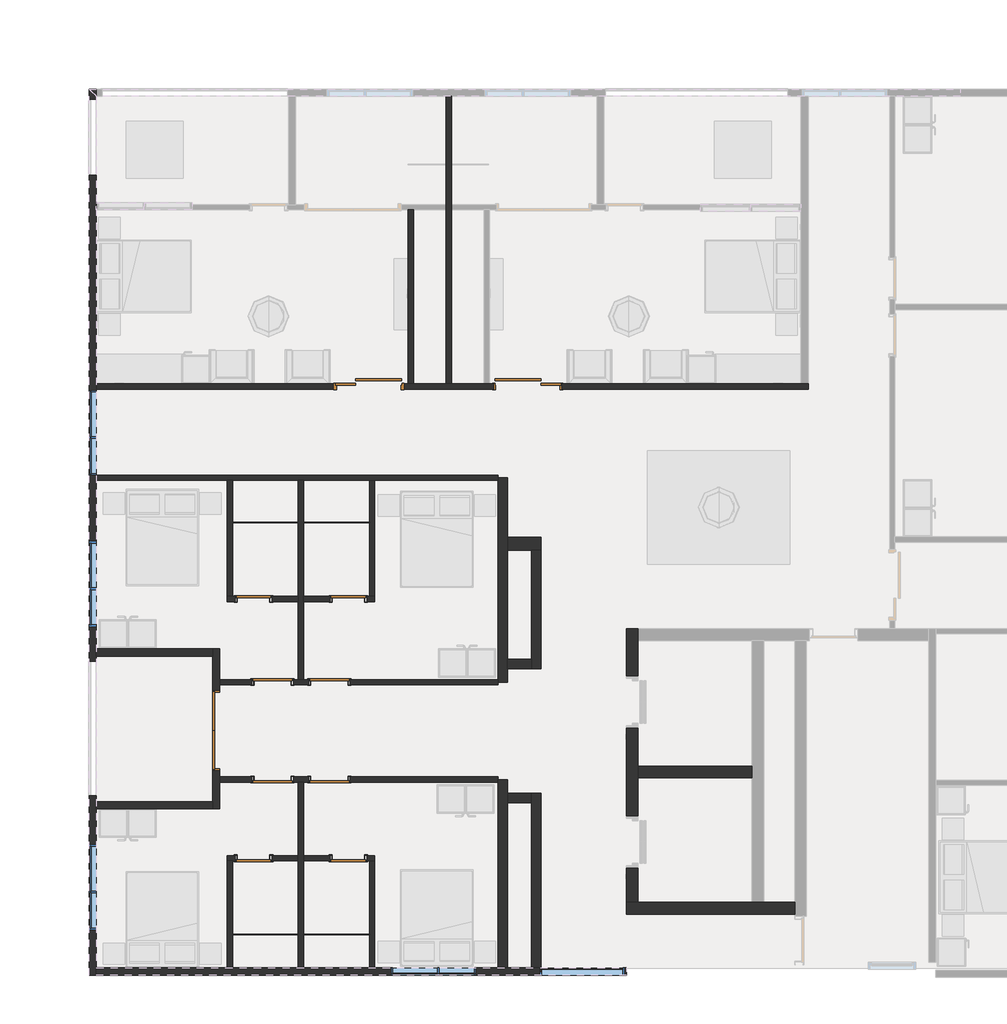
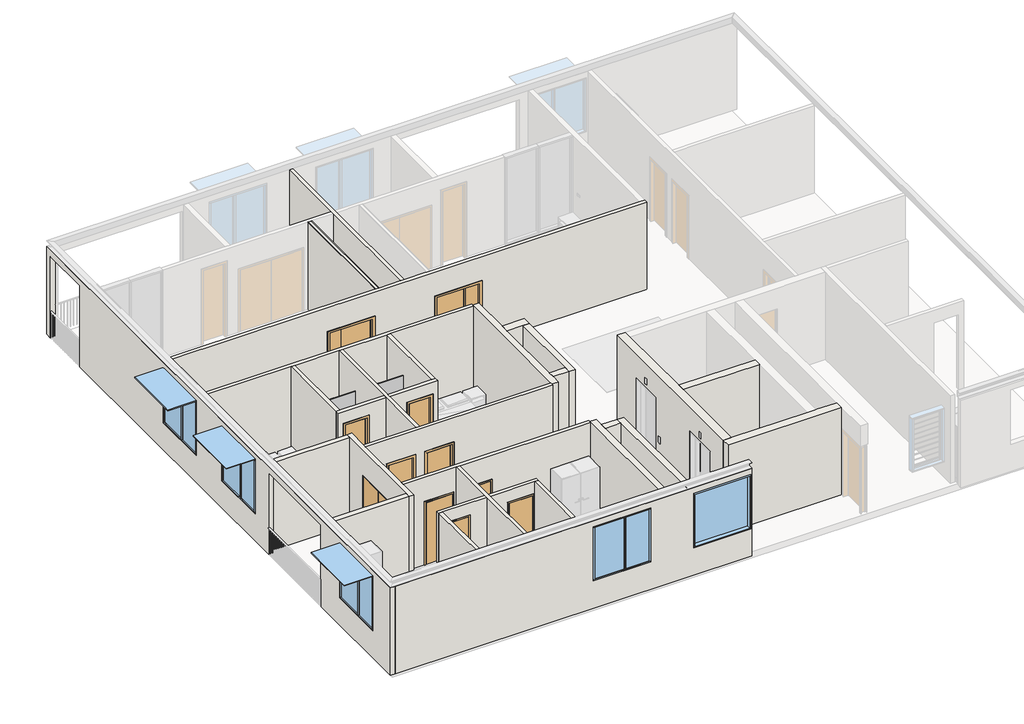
# One storey, part 1 of 4: 29 walls, 11 doors, 5 windows, 3 plates.
"""IFC4 building model written with IfcOpenShell, lengths in millimetres."""

from ifc_helpers import new_model, si_unit, frame, origin, place, context, project, spatial, polyline, outline, extrude, faceted_brep, transform, mapped, element, save
from components import swing_double_aluminium_frame_door_2040x820x2_474ccbf3, swing_double_metal_frame_double_uneven_2040x970_420_3f28db50, swing_double_metal_frame_double_uneven_2040x970_420_093d1636, swing_metal_frame_single_dor_a031a637, swing_metal_frame_single_dor_bd4720e7, swing_metal_frame_single_dor1_05198c53, swing_metal_frame_single_dor1_61deca97, system_panel_glazed_92606f17, system_panel_glazed_5122fece, window_bottom_hung_window_bottom_hung_09912109, window_bottom_hung_window_bottom_hung_26d81d5b, window_fixed_1800mm_wide_217cd763

model = new_model("IFC4")

# Units and contexts
model_context = context("Model", 3, world=origin())
ifc_project = project(units=[si_unit("LENGTHUNIT", "METRE", prefix="MILLI")], contexts=[model_context])

# Site, building, storey
site = spatial("IfcSite", under=ifc_project)
building = spatial("IfcBuilding", under=site)
storey = spatial("IfcBuildingStorey", under=building, Name="7階", Elevation=48500.0)

# Doors
placement = place(None, origin())
swing_double_aluminium_frame_door_2040x820x2_shape = swing_double_aluminium_frame_door_2040x820x2_474ccbf3(model_context)
element("IfcDoor", 1, ObjectType="Swing_Double : Aluminium Frame Door 2040x820x2", at=placement, inside=storey, context=model_context, shape_type="MappedRepresentation", body=[
    mapped(swing_double_aluminium_frame_door_2040x820x2_shape, transform((5044.6057353, 4982.7680774, 48500.0), x_axis=(0.0, -1.0, 0.0), y_axis=(1.0, 0.0, 0.0), z_axis=(0.0, 0.0, 1.0))),
])
swing_double_metal_frame_double_uneven_2040x970_420_shape = swing_double_metal_frame_double_uneven_2040x970_420_3f28db50(model_context)
element("IfcDoor", 2, ObjectType="Swing_Double : Metal Frame Double Uneven - 2040x970+420", at=placement, inside=storey, context=model_context, shape_type="MappedRepresentation", body=[
    mapped(swing_double_metal_frame_double_uneven_2040x970_420_shape, transform((11830.4954006, 12445.7680774, 48500.0), x_axis=(1.0, 0.0, 0.0), y_axis=(0.0, 1.0, 0.0), z_axis=(0.0, 0.0, 1.0))),
])
swing_double_metal_frame_double_uneven_2040x970_420_2_shape = swing_double_metal_frame_double_uneven_2040x970_420_093d1636(model_context)
element("IfcDoor", 3, ObjectType="Swing_Double : Metal Frame Double Uneven - 2040x970+420", at=placement, inside=storey, context=model_context, shape_type="MappedRepresentation", body=[
    mapped(swing_double_metal_frame_double_uneven_2040x970_420_2_shape, transform((8053.1645991, 12445.7680774, 48500.0), x_axis=(-1.0, 0.0, 0.0), y_axis=(0.0, -1.0, 0.0), z_axis=(0.0, 0.0, 1.0))),
])
swing_metal_frame_single_dor_shape = swing_metal_frame_single_dor_a031a637(model_context)
element("IfcDoor", 4, ObjectType="Swing_Metal Frame_Single_DOR : 2040h x 820 (2110x920 STUD)", at=placement, inside=storey, context=model_context, shape_type="MappedRepresentation", body=[
    mapped(swing_metal_frame_single_dor_shape, transform((7434.6645991, 4161.2680774, 48500.0), x_axis=(1.0, 0.0, 0.0), y_axis=(0.0, 1.0, 0.0), z_axis=(0.0, 0.0, 1.0))),
])
element("IfcDoor", 5, ObjectType="Swing_Metal Frame_Single_DOR : 2040h x 820 (2110x920 STUD)", at=placement, inside=storey, context=model_context, shape_type="MappedRepresentation", body=[
    mapped(swing_metal_frame_single_dor_shape, transform((6234.6645991, 6214.2680774, 48500.0), x_axis=(-1.0, 0.0, 0.0), y_axis=(0.0, -1.0, 0.0), z_axis=(0.0, 0.0, 1.0))),
])
swing_metal_frame_single_dor_2_shape = swing_metal_frame_single_dor_bd4720e7(model_context)
element("IfcDoor", 6, ObjectType="Swing_Metal Frame_Single_DOR : 2040h x 820 (2110x920 STUD)", at=placement, inside=storey, context=model_context, shape_type="MappedRepresentation", body=[
    mapped(swing_metal_frame_single_dor_2_shape, transform((6234.6645991, 4161.2680774, 48500.0), x_axis=(-1.0, 0.0, 0.0), y_axis=(0.0, -1.0, 0.0), z_axis=(0.0, 0.0, 1.0))),
])
element("IfcDoor", 7, ObjectType="Swing_Metal Frame_Single_DOR : 2040h x 820 (2110x920 STUD)", at=placement, inside=storey, context=model_context, shape_type="MappedRepresentation", body=[
    mapped(swing_metal_frame_single_dor_2_shape, transform((7434.6645991, 6214.2680774, 48500.0), x_axis=(1.0, 0.0, 0.0), y_axis=(0.0, 1.0, 0.0), z_axis=(0.0, 0.0, 1.0))),
])
swing_metal_frame_single_dor1_shape = swing_metal_frame_single_dor1_05198c53(model_context)
element("IfcDoor", 8, ObjectType="Swing_Metal Frame_Single_DOR1 : 2040h x 720 (2110x820 STUD)", at=placement, inside=storey, context=model_context, shape_type="MappedRepresentation", body=[
    mapped(swing_metal_frame_single_dor1_shape, transform((7834.6645991, 2501.0912238, 48500.0), x_axis=(-1.0, 0.0, 0.0), y_axis=(0.0, -1.0, 0.0), z_axis=(0.0, 0.0, 1.0))),
])
element("IfcDoor", 9, ObjectType="Swing_Metal Frame_Single_DOR1 : 2040h x 720 (2110x820 STUD)", at=placement, inside=storey, context=model_context, shape_type="MappedRepresentation", body=[
    mapped(swing_metal_frame_single_dor1_shape, transform((5834.6645991, 7965.493553, 48500.0), x_axis=(1.0, 0.0, 0.0), y_axis=(0.0, 1.0, 0.0), z_axis=(0.0, 0.0, 1.0))),
])
swing_metal_frame_single_dor1_2_shape = swing_metal_frame_single_dor1_61deca97(model_context)
element("IfcDoor", 10, ObjectType="Swing_Metal Frame_Single_DOR1 : 2040h x 720 (2110x820 STUD)", at=placement, inside=storey, context=model_context, shape_type="MappedRepresentation", body=[
    mapped(swing_metal_frame_single_dor1_2_shape, transform((5834.6645991, 2501.0912238, 48500.0), x_axis=(1.0, 0.0, 0.0), y_axis=(0.0, 1.0, 0.0), z_axis=(0.0, 0.0, 1.0))),
])
element("IfcDoor", 11, ObjectType="Swing_Metal Frame_Single_DOR1 : 2040h x 720 (2110x820 STUD)", at=placement, inside=storey, context=model_context, shape_type="MappedRepresentation", body=[
    mapped(swing_metal_frame_single_dor1_2_shape, transform((7834.6645991, 7965.493553, 48500.0), x_axis=(-1.0, 0.0, 0.0), y_axis=(0.0, -1.0, 0.0), z_axis=(0.0, 0.0, 1.0))),
])

# Plates
system_panel_glazed_shape = system_panel_glazed_92606f17(model_context)
element("IfcPlate", 12, ObjectType="System Panel : Glazed", at=placement, inside=storey, context=model_context, shape_type="MappedRepresentation", body=[
    mapped(system_panel_glazed_shape, transform((6084.6645991, 901.0912238, 48500.0), x_axis=(-1.0, 0.0, 0.0), y_axis=(0.0, -1.0, 0.0), z_axis=(0.0, 0.0, 1.0))),
])
element("IfcPlate", 13, ObjectType="System Panel : Glazed", at=placement, inside=storey, context=model_context, shape_type="MappedRepresentation", body=[
    mapped(system_panel_glazed_shape, transform((7584.6645991, 901.0912238, 48500.0), x_axis=(-1.0, 0.0, 0.0), y_axis=(0.0, -1.0, 0.0), z_axis=(0.0, 0.0, 1.0))),
])
system_panel_glazed_2_shape = system_panel_glazed_5122fece(model_context)
element("IfcPlate", 14, ObjectType="System Panel : Glazed", at=placement, inside=storey, context=model_context, shape_type="MappedRepresentation", body=[
    mapped(system_panel_glazed_2_shape, transform((6834.6645991, 9575.493553, 48500.0), x_axis=(1.0, 0.0, 0.0), y_axis=(0.0, 1.0, 0.0), z_axis=(0.0, 0.0, 1.0))),
])

# Walls
element("IfcWall", 15, ObjectType="Brickwork_Double_270mm", at=placement, inside=storey, context=model_context, shape_type="Brep", body=[
    faceted_brep([(11194.6062665, 8996.2680774, 48500.0), (11694.6062665, 8996.2680774, 48500.0), (11894.6062665, 8996.2680774, 48500.0), (11894.6062665, 8996.2680774, 51400.0), (11694.6062665, 8996.2680774, 51400.0), (11194.6062665, 8996.2680774, 51400.0), (11194.6062665, 9266.2680774, 48500.0), (11194.6062665, 9266.2680774, 51400.0), (11894.6062665, 9266.2680774, 51400.0), (11894.6062665, 9266.2680774, 48500.0)], [[[0, 1, 2, 3, 4, 5]], [[6, 7, 8, 9]], [[2, 1, 0, 6, 9]], [[5, 4, 3, 8, 7]], [[0, 5, 7, 6]], [[3, 2, 9, 8]]]),
])
element("IfcWall", 16, ObjectType="Whte Paint Finish", at=placement, inside=storey, context=model_context, shape_type="Brep", body=[
    faceted_brep([(5119.6057353, 6035.2680774, 50581.0), (5119.6057353, 6035.2680774, 48500.0), (5119.6057353, 6159.2680774, 48500.0), (5119.6057353, 6269.2680774, 48500.0), (5119.6057353, 6914.2680774, 48500.0), (5119.6057353, 6914.2680774, 51400.0), (5119.6057353, 6269.2680774, 51400.0), (5119.6057353, 6159.2680774, 51400.0), (5119.6057353, 4216.2680774, 51400.0), (5119.6057353, 4106.2680774, 51400.0), (5119.6057353, 3546.2680774, 51400.0), (5119.6057353, 3546.2680774, 48500.0), (5119.6057353, 4106.2680774, 48500.0), (5119.6057353, 4216.2680774, 48500.0), (5119.6057353, 4353.2680774, 48500.0), (5119.6057353, 4353.2680774, 50581.0), (4969.6057353, 6914.2680774, 48500.0), (4969.6057353, 6764.2680774, 48500.0), (4969.6057353, 6035.2680774, 48500.0), (4969.6057353, 6035.2680774, 50581.0), (4969.6057353, 4353.2680774, 50581.0), (4969.6057353, 4353.2680774, 48500.0), (4969.6057353, 3696.2680774, 48500.0), (4969.6057353, 3546.2680774, 48500.0), (4969.6057353, 3546.2680774, 51400.0), (4969.6057353, 3696.2680774, 51400.0), (4969.6057353, 6764.2680774, 51400.0), (4969.6057353, 6914.2680774, 51400.0)], [[[0, 1, 2, 3, 4, 5, 6, 7, 8, 9, 10, 11, 12, 13, 14, 15]], [[16, 17, 18, 19, 20, 21, 22, 23, 24, 25, 26, 27]], [[4, 3, 2, 1, 18, 17, 16]], [[14, 13, 12, 11, 23, 22, 21]], [[10, 9, 8, 7, 6, 5, 27, 26, 25, 24]], [[11, 10, 24, 23]], [[5, 4, 16, 27]], [[19, 18, 1, 0]], [[20, 19, 0, 15]], [[21, 20, 15, 14]]]),
])
element("IfcWall", 17, ObjectType="Whte Paint Finish", at=placement, inside=storey, context=model_context, shape_type="SweptSolid", body=[
    extrude(outline(polyline([(2519.6057353, 3696.2680774), (4969.6057353, 3696.2680774), (4969.6057353, 3546.2680774), (2519.6057353, 3546.2680774), (2519.6057353, 3696.2680774)])), frame((0.0, 0.0, 48500.0), z_axis=(0.0, 0.0, 1.0), x_axis=(1.0, 0.0, 0.0)), (0.0, 0.0, 1.0), 2900.0),
])
element("IfcWall", 18, ObjectType="Whte Paint Finish", at=placement, inside=storey, context=model_context, shape_type="SweptSolid", body=[
    extrude(outline(polyline([(2519.6057353, 6914.2680774), (4969.6057353, 6914.2680774), (4969.6057353, 6764.2680774), (2519.6057353, 6764.2680774), (2519.6057353, 6914.2680774)])), frame((0.0, 0.0, 48500.0), z_axis=(0.0, 0.0, 1.0), x_axis=(1.0, 0.0, 0.0)), (0.0, 0.0, 1.0), 2900.0),
])
element("IfcWall", 19, ObjectType="Whte Paint Finish", at=placement, inside=storey, context=model_context, shape_type="Brep", body=[
    faceted_brep([(2519.6057353, 39.0898177, 51400.0), (13694.6062665, 39.0898177, 51400.0), (13694.6062665, 189.0898177, 51400.0), (8389.6645991, 189.0898177, 51400.0), (8279.6645991, 189.0898177, 51400.0), (6889.6645991, 189.0898177, 51400.0), (6779.6645991, 189.0898177, 51400.0), (5389.6645991, 189.0898177, 51400.0), (5279.6645991, 189.0898177, 51400.0), (2519.6057353, 189.0898177, 51400.0), (11869.6062665, 39.0898177, 49400.0), (13669.6062665, 39.0898177, 49400.0), (13669.6062665, 189.0898177, 49400.0), (11869.6062665, 189.0898177, 49400.0), (13669.6062665, 39.0898177, 51200.0), (13669.6062665, 189.0898177, 51200.0), (11869.6062665, 39.0898177, 51200.0), (11869.6062665, 189.0898177, 51200.0), (2519.6057353, 39.0898177, 48500.0), (13694.6062665, 39.0898177, 48500.0), (10529.6062665, 39.0898177, 49400.0), (8729.6062665, 39.0898177, 49400.0), (8729.6062665, 39.0898177, 51200.0), (10529.6062665, 39.0898177, 51200.0), (2519.6057353, 189.0898177, 48500.0), (13694.6062665, 189.0898177, 48500.0), (8389.6645991, 189.0898177, 48500.0), (8279.6645991, 189.0898177, 48500.0), (6889.6645991, 189.0898177, 48500.0), (6779.6645991, 189.0898177, 48500.0), (5389.6645991, 189.0898177, 48500.0), (5279.6645991, 189.0898177, 48500.0), (10529.6062665, 189.0898177, 49400.0), (10529.6062665, 189.0898177, 51200.0), (8729.6062665, 189.0898177, 51200.0), (8729.6062665, 189.0898177, 49400.0)], [[[0, 1, 2, 3, 4, 5, 6, 7, 8, 9]], [[10, 11, 12, 13]], [[11, 14, 15, 12]], [[14, 16, 17, 15]], [[16, 10, 13, 17]], [[18, 19, 1, 0], [10, 16, 14, 11], [20, 21, 22, 23]], [[24, 9, 8, 7, 6, 5, 4, 3, 2, 25, 26, 27, 28, 29, 30, 31], [13, 12, 15, 17], [32, 33, 34, 35]], [[19, 18, 24, 31, 30, 29, 28, 27, 26, 25]], [[1, 19, 25, 2]], [[18, 0, 9, 24]], [[33, 32, 20, 23]], [[34, 33, 23, 22]], [[35, 34, 22, 21]], [[32, 35, 21, 20]]]),
])
element("IfcWall", 20, ObjectType="Whte Paint Finish", at=placement, inside=storey, context=model_context, shape_type="Brep", body=[
    faceted_brep([(2519.6057353, 39.0898177, 51400.0), (2519.6057353, 189.0898177, 51400.0), (2519.6057353, 3546.2680774, 51400.0), (2519.6057353, 3696.2680774, 51400.0), (2519.6057353, 6764.2680774, 51400.0), (2519.6057353, 6914.2680774, 51400.0), (2519.6057353, 10465.005792, 51400.0), (2519.6057353, 10575.005792, 51400.0), (2519.6057353, 12390.7680774, 51400.0), (2519.6057353, 12500.7680774, 51400.0), (2519.6057353, 18560.0, 51400.0), (2519.6057353, 18710.0, 51400.0), (2369.6057353, 18710.0, 51400.0), (2369.6057353, 39.0898177, 51400.0), (2369.6057353, 3816.2680774, 51200.0), (2369.6057353, 6650.3166994, 51200.0), (2519.6057353, 6650.3166994, 51200.0), (2519.6057353, 3816.2680774, 51200.0), (2369.6057353, 6650.3166994, 48500.0), (2519.6057353, 6650.3166994, 48500.0), (2369.6057353, 3816.2680774, 48500.0), (2519.6057353, 3816.2680774, 48500.0), (2369.6057353, 16894.8875971, 51200.0), (2369.6057353, 18500.0, 51200.0), (2519.6057353, 18500.0, 51200.0), (2519.6057353, 16894.8875971, 51200.0), (2369.6057353, 18500.0, 48500.0), (2519.6057353, 18500.0, 48500.0), (2369.6057353, 16894.8875971, 48500.0), (2519.6057353, 16894.8875971, 48500.0), (2519.6057353, 18560.0, 48500.0), (2519.6057353, 18710.0, 48500.0), (2519.6057353, 39.0898177, 48500.0), (2519.6057353, 189.0898177, 48500.0), (2519.6057353, 3546.2680774, 48500.0), (2519.6057353, 3696.2680774, 48500.0), (2519.6057353, 6764.2680774, 48500.0), (2519.6057353, 6914.2680774, 48500.0), (2519.6057353, 10465.005792, 48500.0), (2519.6057353, 10575.005792, 48500.0), (2519.6057353, 12390.7680774, 48500.0), (2519.6057353, 12500.7680774, 48500.0), (2519.6057353, 10570.7680774, 49400.0), (2519.6057353, 10570.7680774, 51200.0), (2519.6057353, 12370.7680774, 51200.0), (2519.6057353, 12370.7680774, 49400.0), (2519.6057353, 990.6340387, 49400.0), (2519.6057353, 990.6340387, 51200.0), (2519.6057353, 2790.6340387, 51200.0), (2519.6057353, 2790.6340387, 49400.0), (2519.6057353, 7385.3166994, 49400.0), (2519.6057353, 7385.3166994, 51200.0), (2519.6057353, 9185.3166994, 51200.0), (2519.6057353, 9185.3166994, 49400.0), (2369.6057353, 18710.0, 48500.0), (2369.6057353, 39.0898177, 48500.0), (2369.6057353, 10570.7680774, 49400.0), (2369.6057353, 12370.7680774, 49400.0), (2369.6057353, 12370.7680774, 51200.0), (2369.6057353, 10570.7680774, 51200.0), (2369.6057353, 990.6340387, 49400.0), (2369.6057353, 2790.6340387, 49400.0), (2369.6057353, 2790.6340387, 51200.0), (2369.6057353, 990.6340387, 51200.0), (2369.6057353, 7385.3166994, 49400.0), (2369.6057353, 9185.3166994, 49400.0), (2369.6057353, 9185.3166994, 51200.0), (2369.6057353, 7385.3166994, 51200.0)], [[[0, 1, 2, 3, 4, 5, 6, 7, 8, 9, 10, 11, 12, 13]], [[14, 15, 16, 17]], [[15, 18, 19, 16]], [[20, 14, 17, 21]], [[22, 23, 24, 25]], [[23, 26, 27, 24]], [[28, 22, 25, 29]], [[24, 27, 30, 31, 11, 10, 9, 8, 7, 6, 5, 4, 3, 2, 1, 0, 32, 33, 34, 35, 21, 17, 16, 19, 36, 37, 38, 39, 40, 41, 29, 25], [42, 43, 44, 45], [46, 47, 48, 49], [50, 51, 52, 53]], [[54, 26, 23, 22, 28, 18, 15, 14, 20, 55, 13, 12], [56, 57, 58, 59], [60, 61, 62, 63], [64, 65, 66, 67]], [[29, 41, 40, 39, 38, 37, 36, 19, 18, 28]], [[21, 35, 34, 33, 32, 55, 20]], [[31, 30, 27, 26, 54]], [[32, 0, 13, 55]], [[11, 31, 54, 12]], [[43, 42, 56, 59]], [[44, 43, 59, 58]], [[45, 44, 58, 57]], [[42, 45, 57, 56]], [[47, 46, 60, 63]], [[48, 47, 63, 62]], [[49, 48, 62, 61]], [[46, 49, 61, 60]], [[51, 50, 64, 67]], [[52, 51, 67, 66]], [[53, 52, 66, 65]], [[50, 53, 65, 64]]]),
])
element("IfcWall", 21, ObjectType="Brickwork_Single_110mm", at=placement, inside=storey, context=model_context, shape_type="Brep", body=[
    faceted_brep([(10994.6062665, 4106.2680774, 51400.0), (6889.6645991, 4106.2680774, 51400.0), (6779.6645991, 4106.2680774, 51400.0), (5119.6057353, 4106.2680774, 51400.0), (5119.6057353, 4106.2680774, 48500.0), (5794.6645991, 4106.2680774, 48500.0), (5794.6645991, 4106.2680774, 50590.0), (6674.6645991, 4106.2680774, 50590.0), (6674.6645991, 4106.2680774, 48500.0), (6779.6645991, 4106.2680774, 48500.0), (6889.6645991, 4106.2680774, 48500.0), (6994.6645991, 4106.2680774, 48500.0), (6994.6645991, 4106.2680774, 50590.0), (7874.6645991, 4106.2680774, 50590.0), (7874.6645991, 4106.2680774, 48500.0), (10994.6062665, 4106.2680774, 48500.0), (5119.6057353, 4216.2680774, 51400.0), (10994.6062665, 4216.2680774, 51400.0), (10994.6062665, 4216.2680774, 48500.0), (7874.6645991, 4216.2680774, 48500.0), (7874.6645991, 4216.2680774, 50590.0), (6994.6645991, 4216.2680774, 50590.0), (6994.6645991, 4216.2680774, 48500.0), (6674.6645991, 4216.2680774, 48500.0), (6674.6645991, 4216.2680774, 50590.0), (5794.6645991, 4216.2680774, 50590.0), (5794.6645991, 4216.2680774, 48500.0), (5119.6057353, 4216.2680774, 48500.0), (10994.6062665, 4161.2680774, 48500.0), (10994.6062665, 4161.2680774, 51400.0)], [[[0, 1, 2, 3, 4, 5, 6, 7, 8, 9, 10, 11, 12, 13, 14, 15]], [[16, 17, 18, 19, 20, 21, 22, 23, 24, 25, 26, 27]], [[4, 27, 26, 5]], [[8, 23, 22, 11, 10, 9]], [[18, 28, 15, 14, 19]], [[3, 2, 1, 0, 29, 17, 16]], [[4, 3, 16, 27]], [[25, 6, 5, 26]], [[6, 25, 24, 7]], [[7, 24, 23, 8]], [[13, 20, 19, 14]], [[20, 13, 12, 21]], [[21, 12, 11, 22]], [[0, 15, 28, 18, 17, 29]]]),
])
element("IfcWall", 22, ObjectType="Brickwork_Single_110mm", at=placement, inside=storey, context=model_context, shape_type="Brep", body=[
    faceted_brep([(6779.6645991, 4106.2680774, 48500.0), (6779.6645991, 2556.0912238, 48500.0), (6779.6645991, 2446.0912238, 48500.0), (6779.6645991, 189.0898177, 48500.0), (6779.6645991, 189.0898177, 51400.0), (6779.6645991, 2446.0912238, 51400.0), (6779.6645991, 2556.0912238, 51400.0), (6779.6645991, 4106.2680774, 51400.0), (6889.6645991, 4106.2680774, 48500.0), (6889.6645991, 4106.2680774, 51400.0), (6889.6645991, 2556.0912238, 51400.0), (6889.6645991, 2446.0912238, 51400.0), (6889.6645991, 189.0898177, 51400.0), (6889.6645991, 189.0898177, 48500.0), (6889.6645991, 2446.0912238, 48500.0), (6889.6645991, 2556.0912238, 48500.0)], [[[0, 1, 2, 3, 4, 5, 6, 7]], [[8, 9, 10, 11, 12, 13, 14, 15]], [[3, 2, 1, 0, 8, 15, 14, 13]], [[7, 6, 5, 4, 12, 11, 10, 9]], [[4, 3, 13, 12]], [[0, 7, 9, 8]]]),
])
element("IfcWall", 23, ObjectType="Brickwork_Single_110mm", at=placement, inside=storey, context=model_context, shape_type="Brep", body=[
    faceted_brep([(10994.6062665, 6159.2680774, 51400.0), (5119.6057353, 6159.2680774, 51400.0), (5119.6057353, 6159.2680774, 48500.0), (5794.6645991, 6159.2680774, 48500.0), (5794.6645991, 6159.2680774, 50590.0), (6674.6645991, 6159.2680774, 50590.0), (6674.6645991, 6159.2680774, 48500.0), (6994.6645991, 6159.2680774, 48500.0), (6994.6645991, 6159.2680774, 50590.0), (7874.6645991, 6159.2680774, 50590.0), (7874.6645991, 6159.2680774, 48500.0), (10994.6062665, 6159.2680774, 48500.0), (5119.6057353, 6269.2680774, 51400.0), (6779.6645991, 6269.2680774, 51400.0), (6889.6645991, 6269.2680774, 51400.0), (10994.6062665, 6269.2680774, 51400.0), (10994.6062665, 6269.2680774, 48500.0), (7874.6645991, 6269.2680774, 48500.0), (7874.6645991, 6269.2680774, 50590.0), (6994.6645991, 6269.2680774, 50590.0), (6994.6645991, 6269.2680774, 48500.0), (6889.6645991, 6269.2680774, 48500.0), (6779.6645991, 6269.2680774, 48500.0), (6674.6645991, 6269.2680774, 48500.0), (6674.6645991, 6269.2680774, 50590.0), (5794.6645991, 6269.2680774, 50590.0), (5794.6645991, 6269.2680774, 48500.0), (5119.6057353, 6269.2680774, 48500.0), (10994.6062665, 6214.2680774, 48500.0), (10994.6062665, 6214.2680774, 51400.0)], [[[0, 1, 2, 3, 4, 5, 6, 7, 8, 9, 10, 11]], [[12, 13, 14, 15, 16, 17, 18, 19, 20, 21, 22, 23, 24, 25, 26, 27]], [[2, 27, 26, 3]], [[6, 23, 22, 21, 20, 7]], [[16, 28, 11, 10, 17]], [[1, 0, 29, 15, 14, 13, 12]], [[2, 1, 12, 27]], [[25, 4, 3, 26]], [[4, 25, 24, 5]], [[5, 24, 23, 6]], [[9, 18, 17, 10]], [[18, 9, 8, 19]], [[19, 8, 7, 20]], [[0, 11, 28, 16, 15, 29]]]),
])
element("IfcWall", 24, ObjectType="Brickwork_Single_110mm", at=placement, inside=storey, context=model_context, shape_type="Brep", body=[
    faceted_brep([(2519.6057353, 10465.005792, 48500.0), (5279.6645991, 10465.005792, 48500.0), (5389.6645991, 10465.005792, 48500.0), (6779.6645991, 10465.005792, 48500.0), (6889.6645991, 10465.005792, 48500.0), (8279.6645991, 10465.005792, 48500.0), (8389.6645991, 10465.005792, 48500.0), (10994.6062665, 10465.005792, 48500.0), (10994.6062665, 10465.005792, 51400.0), (8389.6645991, 10465.005792, 51400.0), (8279.6645991, 10465.005792, 51400.0), (6889.6645991, 10465.005792, 51400.0), (6779.6645991, 10465.005792, 51400.0), (5389.6645991, 10465.005792, 51400.0), (5279.6645991, 10465.005792, 51400.0), (2519.6057353, 10465.005792, 51400.0), (2519.6057353, 10575.005792, 48500.0), (2519.6057353, 10575.005792, 51400.0), (10994.6062665, 10575.005792, 51400.0), (10994.6062665, 10575.005792, 48500.0), (10994.6062665, 10520.005792, 48500.0), (10994.6062665, 10520.005792, 51400.0)], [[[0, 1, 2, 3, 4, 5, 6, 7, 8, 9, 10, 11, 12, 13, 14, 15]], [[16, 17, 18, 19]], [[7, 6, 5, 4, 3, 2, 1, 0, 16, 19, 20]], [[15, 14, 13, 12, 11, 10, 9, 8, 21, 18, 17]], [[0, 15, 17, 16]], [[8, 7, 20, 19, 18, 21]]]),
])
element("IfcWall", 25, ObjectType="Brickwork_Single_110mm", at=placement, inside=storey, context=model_context, shape_type="Brep", body=[
    faceted_brep([(6889.6645991, 6269.2680774, 48500.0), (6889.6645991, 7910.493553, 48500.0), (6889.6645991, 8020.493553, 48500.0), (6889.6645991, 10465.005792, 48500.0), (6889.6645991, 10465.005792, 51400.0), (6889.6645991, 8020.493553, 51400.0), (6889.6645991, 7910.493553, 51400.0), (6889.6645991, 6269.2680774, 51400.0), (6779.6645991, 6269.2680774, 48500.0), (6779.6645991, 6269.2680774, 51400.0), (6779.6645991, 7910.493553, 51400.0), (6779.6645991, 8020.493553, 51400.0), (6779.6645991, 10465.005792, 51400.0), (6779.6645991, 10465.005792, 48500.0), (6779.6645991, 8020.493553, 48500.0), (6779.6645991, 7910.493553, 48500.0)], [[[0, 1, 2, 3, 4, 5, 6, 7]], [[8, 9, 10, 11, 12, 13, 14, 15]], [[3, 2, 1, 0, 8, 15, 14, 13]], [[7, 6, 5, 4, 12, 11, 10, 9]], [[0, 7, 9, 8]], [[4, 3, 13, 12]]]),
])
element("IfcWall", 26, ObjectType="Brickwork_Single_110mm", at=placement, inside=storey, context=model_context, shape_type="Brep", body=[
    faceted_brep([(5279.6645991, 2446.0912238, 51400.0), (5279.6645991, 2446.0912238, 48500.0), (5389.6645991, 2446.0912238, 48500.0), (5444.6645991, 2446.0912238, 48500.0), (5444.6645991, 2446.0912238, 50990.0), (6224.6645991, 2446.0912238, 50990.0), (6224.6645991, 2446.0912238, 48500.0), (6779.6645991, 2446.0912238, 48500.0), (6779.6645991, 2446.0912238, 51400.0), (5389.6645991, 2446.0912238, 51400.0), (5279.6645991, 2556.0912238, 48500.0), (5279.6645991, 2556.0912238, 51400.0), (6779.6645991, 2556.0912238, 51400.0), (6779.6645991, 2556.0912238, 48500.0), (6224.6645991, 2556.0912238, 48500.0), (6224.6645991, 2556.0912238, 50990.0), (5444.6645991, 2556.0912238, 50990.0), (5444.6645991, 2556.0912238, 48500.0)], [[[0, 1, 2, 3, 4, 5, 6, 7, 8, 9]], [[10, 11, 12, 13, 14, 15, 16, 17]], [[1, 10, 17, 3, 2]], [[6, 14, 13, 7]], [[11, 0, 9, 8, 12]], [[8, 7, 13, 12]], [[1, 0, 11, 10]], [[5, 15, 14, 6]], [[15, 5, 4, 16]], [[16, 4, 3, 17]]]),
    faceted_brep([(8389.6645991, 2446.0912238, 48500.0), (8389.6645991, 2446.0912238, 51400.0), (8279.6645991, 2446.0912238, 51400.0), (6889.6645991, 2446.0912238, 51400.0), (6889.6645991, 2446.0912238, 48500.0), (7444.6645991, 2446.0912238, 48500.0), (7444.6645991, 2446.0912238, 50990.0), (8224.6645991, 2446.0912238, 50990.0), (8224.6645991, 2446.0912238, 48500.0), (8279.6645991, 2446.0912238, 48500.0), (8389.6645991, 2556.0912238, 51400.0), (8389.6645991, 2556.0912238, 48500.0), (8224.6645991, 2556.0912238, 48500.0), (8224.6645991, 2556.0912238, 50990.0), (7444.6645991, 2556.0912238, 50990.0), (7444.6645991, 2556.0912238, 48500.0), (6889.6645991, 2556.0912238, 48500.0), (6889.6645991, 2556.0912238, 51400.0)], [[[0, 1, 2, 3, 4, 5, 6, 7, 8, 9]], [[10, 11, 12, 13, 14, 15, 16, 17]], [[11, 0, 9, 8, 12]], [[15, 5, 4, 16]], [[1, 10, 17, 3, 2]], [[4, 3, 17, 16]], [[1, 0, 11, 10]], [[14, 6, 5, 15]], [[6, 14, 13, 7]], [[7, 13, 12, 8]]]),
])
element("IfcWall", 27, ObjectType="Brickwork_Single_110mm", at=placement, inside=storey, context=model_context, shape_type="SweptSolid", body=[
    extrude(outline(polyline([(5279.6645991, 189.0898177), (5279.6645991, 2446.0912238), (5389.6645991, 2446.0912238), (5389.6645991, 189.0898177), (5279.6645991, 189.0898177)])), frame((0.0, 0.0, 48500.0), z_axis=(0.0, 0.0, 1.0), x_axis=(1.0, 0.0, 0.0)), (0.0, 0.0, 1.0), 2900.0),
])
element("IfcWall", 28, ObjectType="Brickwork_Single_110mm", at=placement, inside=storey, context=model_context, shape_type="SweptSolid", body=[
    extrude(outline(polyline([(8279.6645991, 189.0898177), (8279.6645991, 2446.0912238), (8389.6645991, 2446.0912238), (8389.6645991, 189.0898177), (8279.6645991, 189.0898177)])), frame((0.0, 0.0, 48500.0), z_axis=(0.0, 0.0, 1.0), x_axis=(1.0, 0.0, 0.0)), (0.0, 0.0, 1.0), 2900.0),
])
element("IfcWall", 29, ObjectType="Brickwork_Single_110mm", at=placement, inside=storey, context=model_context, shape_type="Brep", body=[
    faceted_brep([(5279.6645991, 7910.493553, 51400.0), (5279.6645991, 7910.493553, 48500.0), (5444.6645991, 7910.493553, 48500.0), (5444.6645991, 7910.493553, 50990.0), (6224.6645991, 7910.493553, 50990.0), (6224.6645991, 7910.493553, 48500.0), (6779.6645991, 7910.493553, 48500.0), (6779.6645991, 7910.493553, 51400.0), (5279.6645991, 8020.493553, 48500.0), (5279.6645991, 8020.493553, 51400.0), (5389.6645991, 8020.493553, 51400.0), (6779.6645991, 8020.493553, 51400.0), (6779.6645991, 8020.493553, 48500.0), (6224.6645991, 8020.493553, 48500.0), (6224.6645991, 8020.493553, 50990.0), (5444.6645991, 8020.493553, 50990.0), (5444.6645991, 8020.493553, 48500.0), (5389.6645991, 8020.493553, 48500.0)], [[[0, 1, 2, 3, 4, 5, 6, 7]], [[8, 9, 10, 11, 12, 13, 14, 15, 16, 17]], [[1, 8, 17, 16, 2]], [[5, 13, 12, 6]], [[9, 0, 7, 11, 10]], [[1, 0, 9, 8]], [[7, 6, 12, 11]], [[4, 14, 13, 5]], [[14, 4, 3, 15]], [[15, 3, 2, 16]]]),
    faceted_brep([(8389.6645991, 7910.493553, 48500.0), (8389.6645991, 7910.493553, 51400.0), (6889.6645991, 7910.493553, 51400.0), (6889.6645991, 7910.493553, 48500.0), (7444.6645991, 7910.493553, 48500.0), (7444.6645991, 7910.493553, 50990.0), (8224.6645991, 7910.493553, 50990.0), (8224.6645991, 7910.493553, 48500.0), (8389.6645991, 8020.493553, 51400.0), (8389.6645991, 8020.493553, 48500.0), (8279.6645991, 8020.493553, 48500.0), (8224.6645991, 8020.493553, 48500.0), (8224.6645991, 8020.493553, 50990.0), (7444.6645991, 8020.493553, 50990.0), (7444.6645991, 8020.493553, 48500.0), (6889.6645991, 8020.493553, 48500.0), (6889.6645991, 8020.493553, 51400.0), (8279.6645991, 8020.493553, 51400.0)], [[[0, 1, 2, 3, 4, 5, 6, 7]], [[8, 9, 10, 11, 12, 13, 14, 15, 16, 17]], [[9, 0, 7, 11, 10]], [[14, 4, 3, 15]], [[1, 8, 17, 16, 2]], [[1, 0, 9, 8]], [[3, 2, 16, 15]], [[13, 5, 4, 14]], [[5, 13, 12, 6]], [[6, 12, 11, 7]]]),
])
element("IfcWall", 30, ObjectType="Brickwork_Single_110mm", at=placement, inside=storey, context=model_context, shape_type="SweptSolid", body=[
    extrude(outline(polyline([(5389.6645991, 10465.005792), (5389.6645991, 8020.493553), (5279.6645991, 8020.493553), (5279.6645991, 10465.005792), (5389.6645991, 10465.005792)])), frame((0.0, 0.0, 48500.0), z_axis=(0.0, 0.0, 1.0), x_axis=(1.0, 0.0, 0.0)), (0.0, 0.0, 1.0), 2900.0),
])
element("IfcWall", 31, ObjectType="Brickwork_Single_110mm", at=placement, inside=storey, context=model_context, shape_type="SweptSolid", body=[
    extrude(outline(polyline([(8389.6645991, 10465.005792), (8389.6645991, 8020.493553), (8279.6645991, 8020.493553), (8279.6645991, 10465.005792), (8389.6645991, 10465.005792)])), frame((0.0, 0.0, 48500.0), z_axis=(0.0, 0.0, 1.0), x_axis=(1.0, 0.0, 0.0)), (0.0, 0.0, 1.0), 2900.0),
])
element("IfcWall", 32, ObjectType="Brickwork_Single_110mm", at=placement, inside=storey, context=model_context, shape_type="Brep", body=[
    faceted_brep([(9894.6062665, 18560.0, 48500.0), (9894.6062665, 16278.7821797, 48500.0), (9894.6062665, 16168.7821797, 48500.0), (9894.6062665, 12500.7680774, 48500.0), (9894.6062665, 12500.7680774, 51400.0), (9894.6062665, 16168.7821797, 51400.0), (9894.6062665, 16278.7821797, 51400.0), (9894.6062665, 18560.0, 51400.0), (10004.6062665, 18560.0, 48500.0), (10004.6062665, 18560.0, 51400.0), (10004.6062665, 16278.7821797, 51400.0), (10004.6062665, 16168.7821797, 51400.0), (10004.6062665, 12500.7680774, 51400.0), (10004.6062665, 12500.7680774, 48500.0), (10004.6062665, 16168.7821797, 48500.0), (10004.6062665, 16278.7821797, 48500.0)], [[[0, 1, 2, 3, 4, 5, 6, 7]], [[8, 9, 10, 11, 12, 13, 14, 15]], [[3, 2, 1, 0, 8, 15, 14, 13]], [[7, 6, 5, 4, 12, 11, 10, 9]], [[0, 7, 9, 8]], [[4, 3, 13, 12]]]),
])
element("IfcWall", 33, ObjectType="Brickwork_Single_110mm", at=placement, inside=storey, context=model_context, shape_type="Brep", body=[
    faceted_brep([(17529.6067978, 12390.7680774, 51400.0), (2519.6057353, 12390.7680774, 51400.0), (2519.6057353, 12390.7680774, 48500.0), (7539.6645991, 12390.7680774, 48500.0), (7539.6645991, 12390.7680774, 50590.0), (8989.6645991, 12390.7680774, 50590.0), (8989.6645991, 12390.7680774, 48500.0), (10893.9954006, 12390.7680774, 48500.0), (10893.9954006, 12390.7680774, 50590.0), (12343.9954006, 12390.7680774, 50590.0), (12343.9954006, 12390.7680774, 48500.0), (17529.6067978, 12390.7680774, 48500.0), (2519.6057353, 12500.7680774, 51400.0), (9090.6062665, 12500.7680774, 51400.0), (9208.6062665, 12500.7680774, 51400.0), (9894.6062665, 12500.7680774, 51400.0), (10004.6062665, 12500.7680774, 51400.0), (10690.6062665, 12500.7680774, 51400.0), (10808.6062665, 12500.7680774, 51400.0), (17379.6067978, 12500.7680774, 51400.0), (17529.6067978, 12500.7680774, 51400.0), (17529.6067978, 12500.7680774, 48500.0), (17379.6067978, 12500.7680774, 48500.0), (12343.9954006, 12500.7680774, 48500.0), (12343.9954006, 12500.7680774, 50590.0), (10893.9954006, 12500.7680774, 50590.0), (10893.9954006, 12500.7680774, 48500.0), (10808.6062665, 12500.7680774, 48500.0), (10690.6062665, 12500.7680774, 48500.0), (10004.6062665, 12500.7680774, 48500.0), (9894.6062665, 12500.7680774, 48500.0), (9208.6062665, 12500.7680774, 48500.0), (9090.6062665, 12500.7680774, 48500.0), (8989.6645991, 12500.7680774, 48500.0), (8989.6645991, 12500.7680774, 50590.0), (7539.6645991, 12500.7680774, 50590.0), (7539.6645991, 12500.7680774, 48500.0), (2519.6057353, 12500.7680774, 48500.0)], [[[0, 1, 2, 3, 4, 5, 6, 7, 8, 9, 10, 11]], [[12, 13, 14, 15, 16, 17, 18, 19, 20, 21, 22, 23, 24, 25, 26, 27, 28, 29, 30, 31, 32, 33, 34, 35, 36, 37]], [[2, 37, 36, 3]], [[11, 10, 23, 22, 21]], [[26, 7, 6, 33, 32, 31, 30, 29, 28, 27]], [[1, 0, 20, 19, 18, 17, 16, 15, 14, 13, 12]], [[2, 1, 12, 37]], [[8, 7, 26, 25]], [[9, 8, 25, 24]], [[10, 9, 24, 23]], [[5, 34, 33, 6]], [[34, 5, 4, 35]], [[35, 4, 3, 36]], [[0, 11, 21, 20]]]),
])
element("IfcWall", 34, ObjectType="C1 - Concrete Type 2", at=placement, inside=storey, context=model_context, shape_type="SweptSolid", body=[
    extrude(outline(polyline([(11694.6062665, 6497.0008144), (11194.6062665, 6497.0008144), (11194.6062665, 6697.0008144), (11694.6062665, 6697.0008144), (11694.6062665, 6497.0008144)])), frame((0.0, 0.0, 48500.0), z_axis=(0.0, 0.0, 1.0), x_axis=(1.0, 0.0, 0.0)), (0.0, 0.0, 1.0), 2900.0),
])
element("IfcWall", 35, ObjectType="C1 - Concrete Type 2", at=placement, inside=storey, context=model_context, shape_type="Brep", body=[
    faceted_brep([(11194.6062665, 6214.2680774, 48500.0), (11194.6062665, 6497.0008144, 48500.0), (11194.6062665, 6697.0008144, 48500.0), (11194.6062665, 8996.2680774, 48500.0), (11194.6062665, 9266.2680774, 48500.0), (11194.6062665, 10520.005792, 48500.0), (11194.6062665, 10520.005792, 51400.0), (11194.6062665, 9266.2680774, 51400.0), (11194.6062665, 8996.2680774, 51400.0), (11194.6062665, 6697.0008144, 51400.0), (11194.6062665, 6497.0008144, 51400.0), (11194.6062665, 6214.2680774, 51400.0), (10994.6062665, 6214.2680774, 48500.0), (10994.6062665, 6214.2680774, 51400.0), (10994.6062665, 6269.2680774, 51400.0), (10994.6062665, 10465.005792, 51400.0), (10994.6062665, 10520.005792, 51400.0), (10994.6062665, 10520.005792, 48500.0), (10994.6062665, 10465.005792, 48500.0), (10994.6062665, 6269.2680774, 48500.0)], [[[0, 1, 2, 3, 4, 5, 6, 7, 8, 9, 10, 11]], [[12, 13, 14, 15, 16, 17, 18, 19]], [[5, 4, 3, 2, 1, 0, 12, 19, 18, 17]], [[6, 5, 17, 16]], [[11, 10, 9, 8, 7, 6, 16, 15, 14, 13]], [[0, 11, 13, 12]]]),
])
element("IfcWall", 36, ObjectType="C1 - Concrete Type 2", at=placement, inside=storey, context=model_context, shape_type="SweptSolid", body=[
    extrude(outline(polyline([(11694.6062665, 3673.0), (11194.6062665, 3673.0), (11194.6062665, 3873.0), (11694.6062665, 3873.0), (11694.6062665, 3673.0)])), frame((0.0, 0.0, 48500.0), z_axis=(0.0, 0.0, 1.0), x_axis=(1.0, 0.0, 0.0)), (0.0, 0.0, 1.0), 2900.0),
])
element("IfcWall", 37, ObjectType="C1 - Concrete Type 2", at=placement, inside=storey, context=model_context, shape_type="Brep", body=[
    faceted_brep([(11194.6062665, 174.0898177, 48500.0), (11194.6062665, 3673.0, 48500.0), (11194.6062665, 3873.0, 48500.0), (11194.6062665, 4161.2680774, 48500.0), (11194.6062665, 4161.2680774, 51400.0), (11194.6062665, 3873.0, 51400.0), (11194.6062665, 3673.0, 51400.0), (11194.6062665, 174.0898177, 51400.0), (10994.6062665, 174.0898177, 48500.0), (10994.6062665, 174.0898177, 51400.0), (10994.6062665, 4106.2680774, 51400.0), (10994.6062665, 4161.2680774, 51400.0), (10994.6062665, 4161.2680774, 48500.0), (10994.6062665, 4106.2680774, 48500.0)], [[[0, 1, 2, 3, 4, 5, 6, 7]], [[8, 9, 10, 11, 12, 13]], [[3, 2, 1, 0, 8, 13, 12]], [[4, 3, 12, 11]], [[7, 6, 5, 4, 11, 10, 9]], [[0, 7, 9, 8]]]),
])
element("IfcWall", 38, ObjectType="C1 - Concrete Type 2", at=placement, inside=storey, context=model_context, shape_type="Brep", body=[
    faceted_brep([(11894.6062665, 114.0898177, 48500.0), (11894.6062665, 3873.0, 48500.0), (11894.6062665, 3873.0, 51400.0), (11894.6062665, 114.0898177, 51400.0), (11694.6062665, 114.0898177, 48500.0), (11694.6062665, 114.0898177, 51400.0), (11694.6062665, 3673.0, 51400.0), (11694.6062665, 3873.0, 51400.0), (11694.6062665, 3873.0, 48500.0), (11694.6062665, 3673.0, 48500.0)], [[[0, 1, 2, 3]], [[4, 5, 6, 7, 8, 9]], [[1, 0, 4, 9, 8]], [[2, 1, 8, 7]], [[3, 2, 7, 6, 5]], [[0, 3, 5, 4]]]),
])
element("IfcWall", 39, ObjectType="C1 - Concrete Type 2", at=placement, inside=storey, context=model_context, shape_type="Brep", body=[
    faceted_brep([(11694.6062665, 8996.2680774, 48500.0), (11694.6062665, 6697.0008144, 48500.0), (11694.6062665, 6497.0008144, 48500.0), (11694.6062665, 6497.0008144, 51400.0), (11694.6062665, 6697.0008144, 51400.0), (11694.6062665, 8996.2680774, 51400.0), (11894.6062665, 8996.2680774, 48500.0), (11894.6062665, 8996.2680774, 51400.0), (11894.6062665, 6497.0008144, 51400.0), (11894.6062665, 6497.0008144, 48500.0)], [[[0, 1, 2, 3, 4, 5]], [[6, 7, 8, 9]], [[2, 1, 0, 6, 9]], [[5, 4, 3, 8, 7]], [[3, 2, 9, 8]], [[0, 5, 7, 6]]]),
])
element("IfcWall", 40, ObjectType="C1 - Concrete Type 3 - 250mm", at=placement, inside=storey, context=model_context, shape_type="Brep", body=[
    faceted_brep([(13694.6062665, 1325.0, 48500.0), (17244.6062665, 1325.0, 48500.0), (17244.6062665, 1325.0, 51400.0), (13694.6062665, 1325.0, 51400.0), (13694.6062665, 1575.0, 48500.0), (13694.6062665, 1575.0, 51400.0), (13944.6062665, 1575.0, 51400.0), (16344.6062665, 1575.0, 51400.0), (16594.6062665, 1575.0, 51400.0), (17244.6062665, 1575.0, 51400.0), (17244.6062665, 1575.0, 48500.0), (16594.6062665, 1575.0, 48500.0), (16344.6062665, 1575.0, 48500.0), (13944.6062665, 1575.0, 48500.0)], [[[0, 1, 2, 3]], [[4, 5, 6, 7, 8, 9, 10, 11, 12, 13]], [[1, 0, 4, 13, 12, 11, 10]], [[3, 2, 9, 8, 7, 6, 5]], [[0, 3, 5, 4]], [[2, 1, 10, 9]]]),
])
element("IfcWall", 41, ObjectType="C1 - Concrete Type 3 - 250mm", at=placement, inside=storey, context=model_context, shape_type="SweptSolid", body=[
    extrude(outline(polyline([(16344.6062665, 4195.0), (13944.6062665, 4195.0), (13944.6062665, 4445.0), (16344.6062665, 4445.0), (16344.6062665, 4195.0)])), frame((0.0, 0.0, 48500.0), z_axis=(0.0, 0.0, 1.0), x_axis=(1.0, 0.0, 0.0)), (0.0, 0.0, 1.0), 2900.0),
])
element("IfcWall", 42, ObjectType="C1 - Concrete Type 3 - 250mm", at=placement, inside=storey, context=model_context, shape_type="Brep", body=[
    faceted_brep([(13944.6062665, 7335.0, 51400.0), (13944.6062665, 7085.0, 51400.0), (13944.6062665, 4445.0, 51400.0), (13944.6062665, 4195.0, 51400.0), (13944.6062665, 1575.0, 51400.0), (13944.6062665, 1575.0, 48500.0), (13944.6062665, 2295.0, 48500.0), (13944.6062665, 2295.0, 50600.0), (13944.6062665, 3395.0, 50600.0), (13944.6062665, 3395.0, 48500.0), (13944.6062665, 4195.0, 48500.0), (13944.6062665, 4445.0, 48500.0), (13944.6062665, 5245.0, 48500.0), (13944.6062665, 5245.0, 50600.0), (13944.6062665, 6345.0, 50600.0), (13944.6062665, 6345.0, 48500.0), (13944.6062665, 7085.0, 48500.0), (13944.6062665, 7335.0, 48500.0), (13694.6062665, 1575.0, 51400.0), (13694.6062665, 7335.0, 51400.0), (13694.6062665, 7335.0, 48500.0), (13694.6062665, 6345.0, 48500.0), (13694.6062665, 6345.0, 50600.0), (13694.6062665, 5245.0, 50600.0), (13694.6062665, 5245.0, 48500.0), (13694.6062665, 3395.0, 48500.0), (13694.6062665, 3395.0, 50600.0), (13694.6062665, 2295.0, 50600.0), (13694.6062665, 2295.0, 48500.0), (13694.6062665, 1575.0, 48500.0), (13694.6062665, 2165.0, 49200.0), (13694.6062665, 2165.0, 49400.0), (13694.6062665, 2065.0, 49400.0), (13694.6062665, 2065.0, 49200.0), (13694.6062665, 2895.0, 50700.0), (13694.6062665, 2895.0, 50900.0), (13694.6062665, 2795.0, 50900.0), (13694.6062665, 2795.0, 50700.0), (13694.6062665, 5115.0, 49200.0), (13694.6062665, 5115.0, 49400.0), (13694.6062665, 5015.0, 49400.0), (13694.6062665, 5015.0, 49200.0), (13694.6062665, 5845.0, 50700.0), (13694.6062665, 5845.0, 50900.0), (13694.6062665, 5745.0, 50900.0), (13694.6062665, 5745.0, 50700.0), (13714.6062665, 2165.0, 49200.0), (13714.6062665, 2065.0, 49200.0), (13714.6062665, 2065.0, 49400.0), (13714.6062665, 2165.0, 49400.0), (13714.6062665, 2895.0, 50700.0), (13714.6062665, 2795.0, 50700.0), (13714.6062665, 2795.0, 50900.0), (13714.6062665, 2895.0, 50900.0), (13714.6062665, 5115.0, 49200.0), (13714.6062665, 5015.0, 49200.0), (13714.6062665, 5015.0, 49400.0), (13714.6062665, 5115.0, 49400.0), (13714.6062665, 5845.0, 50700.0), (13714.6062665, 5745.0, 50700.0), (13714.6062665, 5745.0, 50900.0), (13714.6062665, 5845.0, 50900.0)], [[[0, 1, 2, 3, 4, 5, 6, 7, 8, 9, 10, 11, 12, 13, 14, 15, 16, 17]], [[18, 19, 20, 21, 22, 23, 24, 25, 26, 27, 28, 29], [30, 31, 32, 33], [34, 35, 36, 37], [38, 39, 40, 41], [42, 43, 44, 45]], [[6, 5, 29, 28]], [[9, 25, 24, 12, 11, 10]], [[20, 17, 16, 15, 21]], [[4, 3, 2, 1, 0, 19, 18]], [[27, 7, 6, 28]], [[8, 26, 25, 9]], [[7, 27, 26, 8]], [[46, 47, 48, 49]], [[46, 49, 31, 30]], [[49, 48, 32, 31]], [[48, 47, 33, 32]], [[47, 46, 30, 33]], [[50, 51, 52, 53]], [[50, 53, 35, 34]], [[53, 52, 36, 35]], [[52, 51, 37, 36]], [[51, 50, 34, 37]], [[23, 13, 12, 24]], [[14, 22, 21, 15]], [[13, 23, 22, 14]], [[54, 55, 56, 57]], [[54, 57, 39, 38]], [[57, 56, 40, 39]], [[56, 55, 41, 40]], [[55, 54, 38, 41]], [[58, 59, 60, 61]], [[58, 61, 43, 42]], [[61, 60, 44, 43]], [[60, 59, 45, 44]], [[59, 58, 42, 45]], [[0, 17, 20, 19]], [[5, 4, 18, 29]]]),
])
element("IfcWall", 43, ObjectType="P1 - Partition Type 1", at=placement, inside=storey, context=model_context, shape_type="SweptSolid", body=[
    extrude(outline(polyline([(51400.0, 9090.6062665), (48500.0, 9090.6062665), (48500.0, 9208.6062665), (51400.0, 9208.6062665), (51400.0, 9195.6062665), (51400.0, 9103.6062665), (51400.0, 9090.6062665)])), frame((0.0, 12500.7680774, 0.0), z_axis=(0.0, 1.0, 0.0), x_axis=(0.0, 0.0, 1.0)), (0.0, 0.0, 1.0), 3668.0141023),
])

# Windows
window_bottom_hung_window_bottom_hung_shape = window_bottom_hung_window_bottom_hung_09912109(model_context)
element("IfcWindow", 44, ObjectType="Window_Bottom Hung : Window_Bottom Hung", at=placement, inside=storey, context=model_context, shape_type="MappedRepresentation", body=[
    mapped(window_bottom_hung_window_bottom_hung_shape, transform((2444.6057353, 8285.3166994, 48400.0), x_axis=(0.0, 1.0, 0.0), y_axis=(-1.0, 0.0, 0.0), z_axis=(0.0, 0.0, 1.0))),
])
element("IfcWindow", 45, ObjectType="Window_Bottom Hung : Window_Bottom Hung", at=placement, inside=storey, context=model_context, shape_type="MappedRepresentation", body=[
    mapped(window_bottom_hung_window_bottom_hung_shape, transform((2444.6057353, 1890.6340387, 48400.0), x_axis=(0.0, 1.0, 0.0), y_axis=(-1.0, 0.0, 0.0), z_axis=(0.0, 0.0, 1.0))),
])
element("IfcWindow", 46, ObjectType="Window_Bottom Hung : Window_Bottom Hung", at=placement, inside=storey, context=model_context, shape_type="MappedRepresentation", body=[
    mapped(window_bottom_hung_window_bottom_hung_shape, transform((2444.6057353, 11470.7680774, 48400.0), x_axis=(0.0, 1.0, 0.0), y_axis=(-1.0, 0.0, 0.0), z_axis=(0.0, 0.0, 1.0))),
])
window_bottom_hung_window_bottom_hung_2_shape = window_bottom_hung_window_bottom_hung_26d81d5b(model_context)
element("IfcWindow", 47, ObjectType="Window_Bottom Hung : Window_Bottom Hung", at=placement, inside=storey, context=model_context, shape_type="MappedRepresentation", body=[
    mapped(window_bottom_hung_window_bottom_hung_2_shape, transform((9629.6062665, 114.0898177, 48400.0), x_axis=(-1.0, 0.0, 0.0), y_axis=(0.0, -1.0, 0.0), z_axis=(0.0, 0.0, 1.0))),
])
window_fixed_1800mm_wide_shape = window_fixed_1800mm_wide_217cd763(model_context)
element("IfcWindow", 48, ObjectType="Window_Fixed : 1800mm Wide", at=placement, inside=storey, context=model_context, shape_type="MappedRepresentation", body=[
    mapped(window_fixed_1800mm_wide_shape, transform((12769.6062665, 114.0898177, 49150.0), x_axis=(1.0, 0.0, 0.0), y_axis=(0.0, 1.0, 0.0), z_axis=(0.0, 0.0, 1.0))),
])

save(model, "model.ifc")
